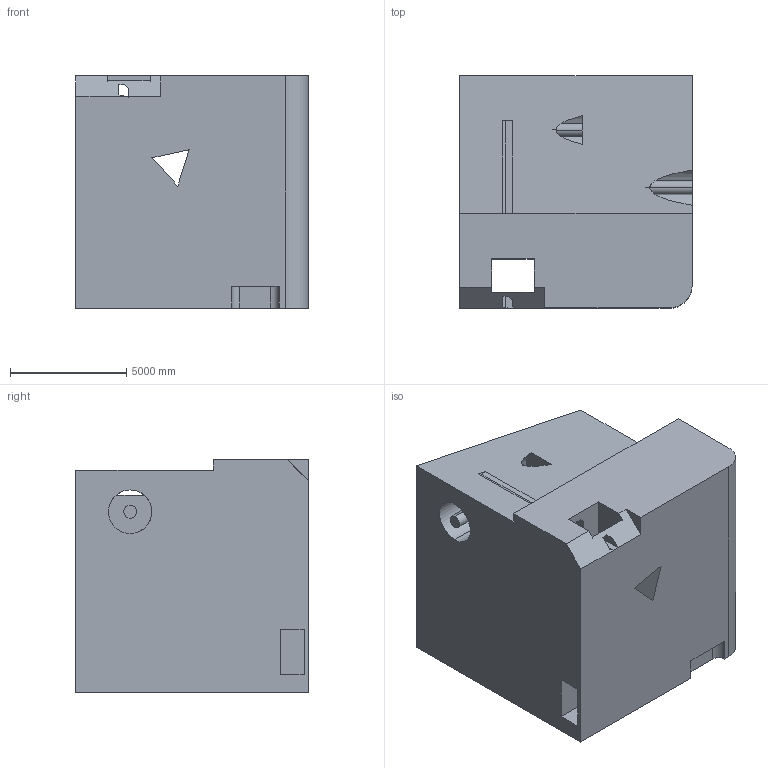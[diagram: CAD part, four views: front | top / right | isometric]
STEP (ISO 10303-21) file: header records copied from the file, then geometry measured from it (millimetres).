
FILE_DESCRIPTION (( 'STEP AP203' ), '1' );
FILE_NAME ('194.STEP', '2022-09-05T16:07:57', ( 'user' ), ( '' ), 'SwSTEP 2.0', 'SolidWorks 2021', '' );
FILE_SCHEMA (( 'CONFIG_CONTROL_DESIGN' ));
Length unit declared in the file: centimetre
Products named in the file (1): 194
Bounding box: 10000 x 10000 x 10000 mm (x, y, z)
Volume: 835302671427.3 mm3; surface area: 781917720 mm2
Topology: 1 solids, 1 shells, 54 faces, 160 edges, 106 vertices
Faces by surface type: plane 43, cylinder 11
Entity records: 1891 total; most frequent: CARTESIAN_POINT 333, ORIENTED_EDGE 320, DIRECTION 288, EDGE_CURVE 160, LINE 134, VECTOR 134, VERTEX_POINT 106, AXIS2_PLACEMENT_3D 77
